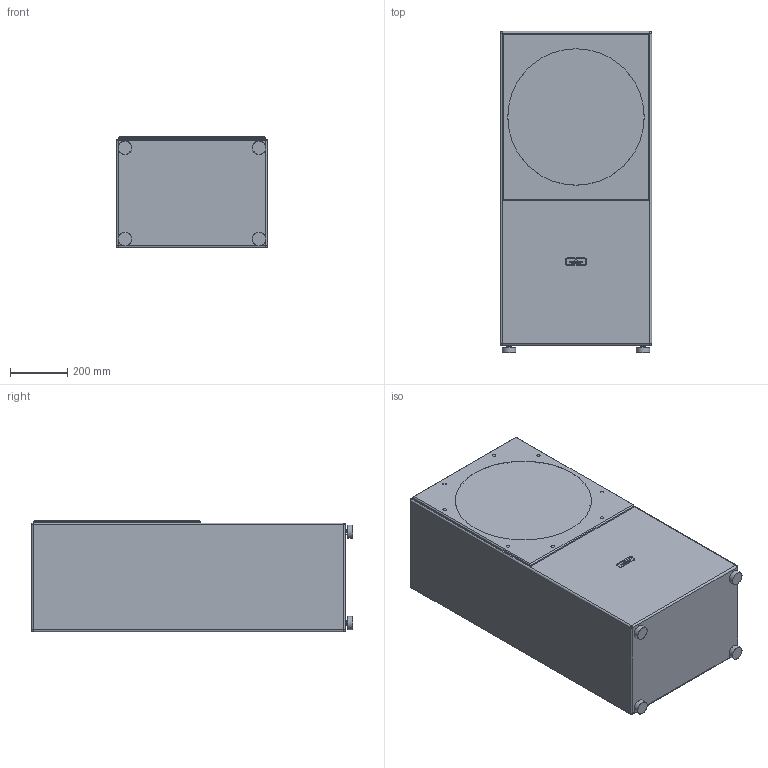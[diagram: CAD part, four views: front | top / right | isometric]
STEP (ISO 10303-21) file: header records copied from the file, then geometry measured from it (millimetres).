
FILE_DESCRIPTION(/* description */ ('','CAx-IF Rec.Pracs.---Representation and Presentation of Product Manufacturing Information (PMI)---4.0---2014-10-13'),/* implementation_level */ '2;1');
FILE_NAME(/* name */ '3D_THE18 SUB PRO PASSIVE SEALED_Public_SI.step',/* time_stamp */ '2025-01-29T08:02:45+01:00',/* author */ (''),/* organization */ (''),/* preprocessor_version */ 'ST-DEVELOPER v20',/* originating_system */ 'Autodesk Translation Framework v13.20.0.188',/* authorisation */ '');
FILE_SCHEMA (('AP242_MANAGED_MODEL_BASED_3D_ENGINEERING_MIM_LF { 1 0 10303 442 1 1 4 }'));
Products named in the file (3): The18 Sub PRO PASSIVE SEALED_COMBINE; COMBINE_Grille_with_Cloth; COMBINE_FullSpeaker
Assembly tree (2 placements, depth 2):
  The18 Sub PRO PASSIVE SEALED_COMBINE
    COMBINE_Grille_with_Cloth
    COMBINE_FullSpeaker
Bounding box: 530 x 1125 x 390.2 mm (x, y, z)
Volume: 206442628.7 mm3; surface area: 3745133.3 mm2
Topology: 21 solids, 61 shells, 2691 faces, 7000 edges, 4585 vertices
Faces by surface type: plane 1408, cylinder 542, bspline 519, cone 120, torus 81, sphere 21
Full cylindrical faces by diameter (mm): 1.2 x3, 3 x10, 3.2 x4, 3.5 x4, 4 x12, 4.5 x6, 5 x1, 5.5 x6, 6 x8, 6.701 x4, 8 x16, 12 x30, 12.4 x6, 12.5 x6, 13 x8, 14 x4, 14.9 x1, 17.6 x1, 21 x1, 23.6 x3, 24 x2, 24.25 x1, 25.9 x1, 26.5 x1, 47 x4, 166 x1, 422 x1, 430 x1, 466 x1, 470 x1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
Entity records: 90130 total; most frequent: CARTESIAN_POINT 24243, ORIENTED_EDGE 14080, DIRECTION 12548, EDGE_CURVE 7040, VERTEX_POINT 4586, LINE 4218, VECTOR 4218, AXIS2_PLACEMENT_3D 4165
